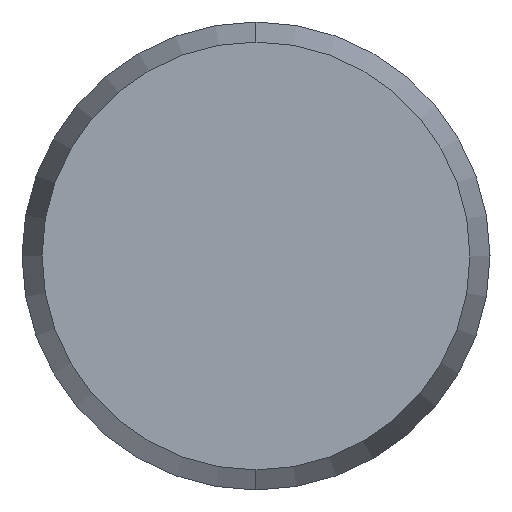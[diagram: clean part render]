
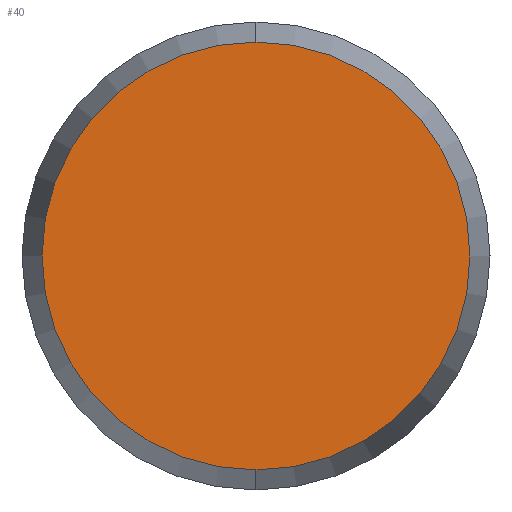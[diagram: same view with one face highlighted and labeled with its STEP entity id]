
A CAD part, left-side view. The second image highlights one B-rep face of the part: STEP entity #40.
In plain terms, the highlighted planar face has unit normal (-1, 0, 0).
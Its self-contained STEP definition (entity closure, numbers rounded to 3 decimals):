
#3 = EDGE_LOOP ( 'NONE', ( #41, #35 ) ) ;
#11 = VERTEX_POINT ( 'NONE', #76 ) ;
#13 = VERTEX_POINT ( 'NONE', #75 ) ;
#14 = EDGE_CURVE ( 'NONE', #13, #11, #73, .T. ) ;
#34 = EDGE_CURVE ( 'NONE', #11, #13, #127, .T. ) ;
#35 = ORIENTED_EDGE ( 'NONE', *, *, #34, .F. ) ;
#40 = ADVANCED_FACE ( 'NONE', ( #128 ), #122, .F. ) ;
#41 = ORIENTED_EDGE ( 'NONE', *, *, #14, .F. ) ;
#69 = DIRECTION ( 'NONE',  ( 0., 0., -1. ) ) ;
#70 = DIRECTION ( 'NONE',  ( 1., 0., 0. ) ) ;
#71 = CARTESIAN_POINT ( 'NONE',  ( -16., 0., 0. ) ) ;
#72 = AXIS2_PLACEMENT_3D ( 'NONE', #71, #70, #69 ) ;
#73 = CIRCLE ( 'NONE', #72, 2.286 ) ;
#75 = CARTESIAN_POINT ( 'NONE',  ( -16., 0., 2.286 ) ) ;
#76 = CARTESIAN_POINT ( 'NONE',  ( -16., 0., -2.286 ) ) ;
#117 = DIRECTION ( 'NONE',  ( 0., 0., -1. ) ) ;
#118 = DIRECTION ( 'NONE',  ( 1., 0., 0. ) ) ;
#119 = CARTESIAN_POINT ( 'NONE',  ( -16., 0., 0. ) ) ;
#120 = AXIS2_PLACEMENT_3D ( 'NONE', #119, #118, #117 ) ;
#122 = PLANE ( 'NONE',  #120 ) ;
#123 = DIRECTION ( 'NONE',  ( 0., 0., -1. ) ) ;
#124 = DIRECTION ( 'NONE',  ( 1., 0., 0. ) ) ;
#125 = CARTESIAN_POINT ( 'NONE',  ( -16., 0., 0. ) ) ;
#126 = AXIS2_PLACEMENT_3D ( 'NONE', #125, #124, #123 ) ;
#127 = CIRCLE ( 'NONE', #126, 2.286 ) ;
#128 = FACE_OUTER_BOUND ( 'NONE', #3, .T. ) ;
